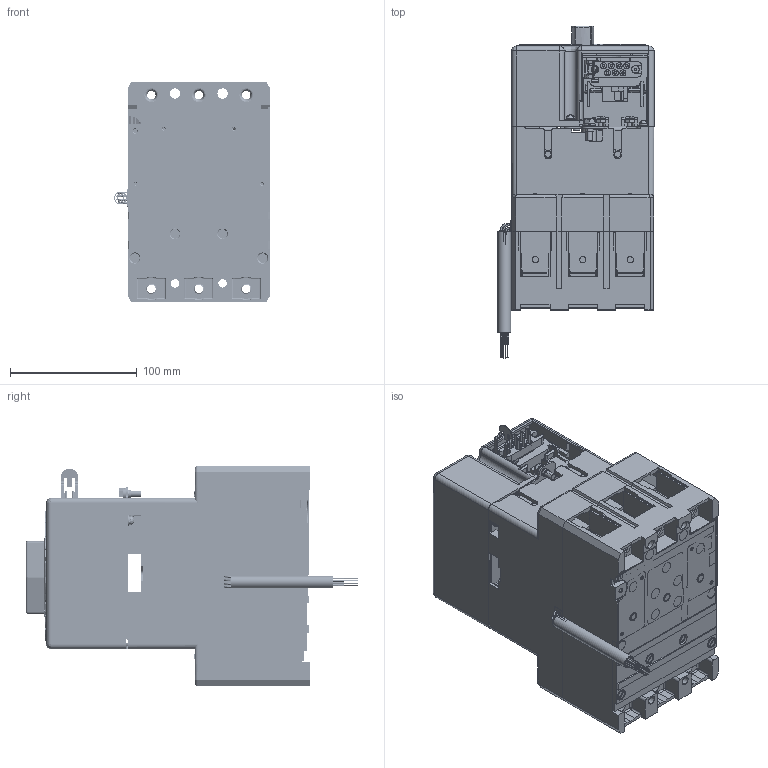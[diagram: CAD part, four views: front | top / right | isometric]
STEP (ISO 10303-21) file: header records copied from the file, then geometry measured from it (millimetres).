
FILE_DESCRIPTION (( 'STEP AP203' ), '1' );
FILE_NAME ('ﾂﾀ57-35 ﾝﾌﾏ111.STEP', '2014-06-19T06:23:35', ( 'admin' ), ( 'Microsoft' ), 'SwSTEP 2.0', 'SolidWorks 2007', '' );
FILE_SCHEMA (( 'CONFIG_CONTROL_DESIGN' ));
Products named in the file (1): ﾂﾀ57-35 ﾝﾌﾏ111
Bounding box: 123.26 x 262.26 x 174.49 mm (x, y, z)
Surface area: 335862.5 mm2 (no closed solid volume)
Topology: 0 solids, 1789 shells, 1944 faces, 11071 edges, 10843 vertices
Faces by surface type: plane 823, cylinder 800, bspline 209, cone 112
Entity records: 180354 total; most frequent: CARTESIAN_POINT 101141, DIRECTION 14542, ORIENTED_EDGE 11153, EDGE_CURVE 10998, VERTEX_POINT 10843, VECTOR 6644, LINE 6644, AXIS2_PLACEMENT_3D 3949
